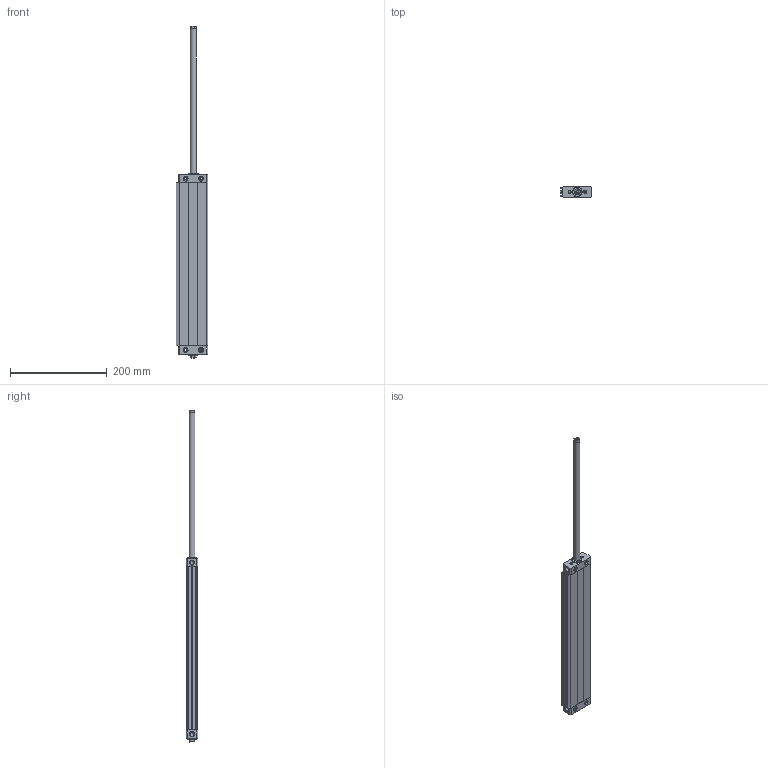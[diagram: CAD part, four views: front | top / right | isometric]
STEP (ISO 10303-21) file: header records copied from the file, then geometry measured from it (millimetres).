
FILE_DESCRIPTION((''),'2;1');
FILE_NAME('I:\Area Tecnica\Disegni\VARIE-3D\Componenti\1370 - CPO\1370_##_0000_03\1370_32_0300_03-01.iam.step','2010-12-16T10:55:47',(''),(''),'Autodesk Inventor 2011','Autodesk Inventor 2011','');
FILE_SCHEMA(('AUTOMOTIVE_DESIGN { 1 0 10303 214 1 1 1 1 }'));
Length unit declared in the file: millimetre
Products named in the file (5): 1370_32_0300_03-01; 1370_05_32_0000; 1370_06_32_0300; 1370_08_32_0000; 1370_3_32_0300
Assembly tree (4 placements, depth 2):
  1370_32_0300_03-01
    1370_05_32_0000
    1370_06_32_0300
    1370_08_32_0000
    1370_3_32_0300
Bounding box: 65.5 x 24 x 688 mm (x, y, z)
Volume: 344244.6 mm3; surface area: 156068.8 mm2
Topology: 4 solids, 4 shells, 164 faces, 392 edges, 250 vertices
Faces by surface type: plane 92, cylinder 48, cone 24
Full cylindrical faces by diameter (mm): 5 x12, 6.3 x2, 8.7 x2, 10 x8, 11.5 x2, 12 x4, 20 x2
Entity records: 4780 total; most frequent: DIRECTION 792, CARTESIAN_POINT 787, ORIENTED_EDGE 660, EDGE_CURVE 330, AXIS2_PLACEMENT_3D 297, EDGE_LOOP 252, VERTEX_POINT 240, VECTOR 198
